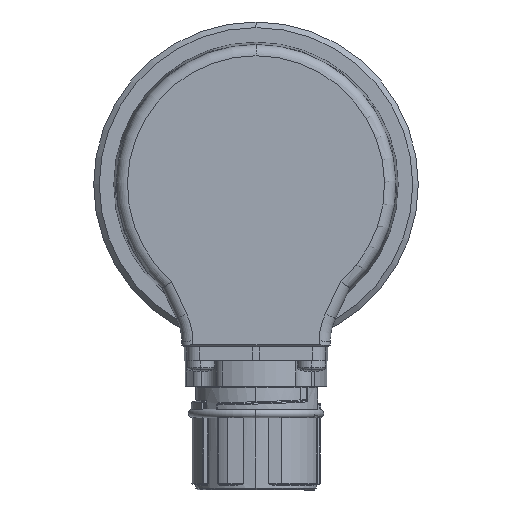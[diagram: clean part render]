
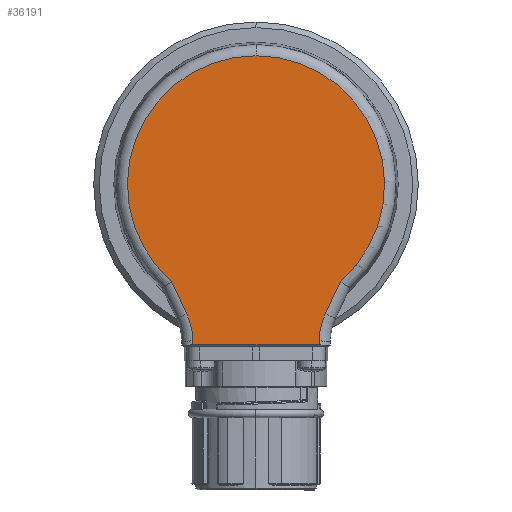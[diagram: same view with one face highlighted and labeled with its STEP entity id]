
A CAD part, left-side view. The second image highlights one B-rep face of the part: STEP entity #36191.
In plain terms, the highlighted planar face has unit normal (-1, 0, 0).
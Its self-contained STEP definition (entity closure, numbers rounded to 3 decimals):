
#11 = CARTESIAN_POINT ( 'NONE',  ( -21., 0., 0. ) ) ;
#308 = VERTEX_POINT ( 'NONE', #11670 ) ;
#537 = AXIS2_PLACEMENT_3D ( 'NONE', #43674, #23102, #2598 ) ;
#1126 = CARTESIAN_POINT ( 'NONE',  ( -21., 0., 0. ) ) ;
#1197 = ORIENTED_EDGE ( 'NONE', *, *, #4804, .T. ) ;
#1620 = DIRECTION ( 'NONE',  ( 1., 0., 0. ) ) ;
#2598 = DIRECTION ( 'NONE',  ( 0., 0., 1. ) ) ;
#3131 = VECTOR ( 'NONE', #29706, 1000. ) ;
#3166 = EDGE_CURVE ( 'NONE', #3321, #34284, #43244, .T. ) ;
#3227 = EDGE_CURVE ( 'NONE', #34284, #41139, #41115, .T. ) ;
#3299 = DIRECTION ( 'NONE',  ( 0., -0.423, 0.906 ) ) ;
#3321 = VERTEX_POINT ( 'NONE', #14503 ) ;
#3727 = AXIS2_PLACEMENT_3D ( 'NONE', #1126, #25095, #4569 ) ;
#3881 = DIRECTION ( 'NONE',  ( -1., 0., 0. ) ) ;
#4569 = DIRECTION ( 'NONE',  ( 0., 0., 1. ) ) ;
#4736 = EDGE_CURVE ( 'NONE', #33303, #308, #5048, .T. ) ;
#4804 = EDGE_CURVE ( 'NONE', #308, #3321, #38825, .T. ) ;
#5048 = LINE ( 'NONE', #9016, #40469 ) ;
#5737 = CARTESIAN_POINT ( 'NONE',  ( -21., -11.25, -28.695 ) ) ;
#6498 = VERTEX_POINT ( 'NONE', #22787 ) ;
#6727 = CARTESIAN_POINT ( 'NONE',  ( -21., -14.953, -17.615 ) ) ;
#7555 = CARTESIAN_POINT ( 'NONE',  ( -21., 11.255, -28.695 ) ) ;
#8208 = CARTESIAN_POINT ( 'NONE',  ( -21., 12.39, -23.112 ) ) ;
#9016 = CARTESIAN_POINT ( 'NONE',  ( -21., -11.752, -0.205 ) ) ;
#9537 = CIRCLE ( 'NONE', #3727, 22.972 ) ;
#9864 = VECTOR ( 'NONE', #26253, 1000. ) ;
#10692 = CARTESIAN_POINT ( 'NONE',  ( -21., 11.268, -27.974 ) ) ;
#11136 = CARTESIAN_POINT ( 'NONE',  ( -21., -11.255, -28.695 ) ) ;
#11670 = CARTESIAN_POINT ( 'NONE',  ( -21., -11.268, -27.974 ) ) ;
#12477 = LINE ( 'NONE', #8208, #38827 ) ;
#13671 = VERTEX_POINT ( 'NONE', #7555 ) ;
#13774 = DIRECTION ( 'NONE',  ( 1., 0., 0. ) ) ;
#14042 = ORIENTED_EDGE ( 'NONE', *, *, #43719, .T. ) ;
#14285 = CARTESIAN_POINT ( 'NONE',  ( -21., 0., 22.972 ) ) ;
#14503 = CARTESIAN_POINT ( 'NONE',  ( -21., -12.39, -23.112 ) ) ;
#15860 = VECTOR ( 'NONE', #3299, 1000. ) ;
#18269 = VERTEX_POINT ( 'NONE', #10692 ) ;
#18458 = ORIENTED_EDGE ( 'NONE', *, *, #42823, .T. ) ;
#19028 = ORIENTED_EDGE ( 'NONE', *, *, #43777, .T. ) ;
#19944 = AXIS2_PLACEMENT_3D ( 'NONE', #22125, #1620, #25595 ) ;
#21365 = LINE ( 'NONE', #5737, #3131 ) ;
#22125 = CARTESIAN_POINT ( 'NONE',  ( -21., 23.266, -28.183 ) ) ;
#22787 = CARTESIAN_POINT ( 'NONE',  ( -21., 15.091, -17.32 ) ) ;
#23102 = DIRECTION ( 'NONE',  ( 1., 0., 0. ) ) ;
#24414 = CARTESIAN_POINT ( 'NONE',  ( -21., 0., 0. ) ) ;
#24904 = ORIENTED_EDGE ( 'NONE', *, *, #3166, .T. ) ;
#25095 = DIRECTION ( 'NONE',  ( -1., 0., 0. ) ) ;
#25595 = DIRECTION ( 'NONE',  ( 0., 0., 1. ) ) ;
#26253 = DIRECTION ( 'NONE',  ( 0., -0.017, -1. ) ) ;
#27164 = AXIS2_PLACEMENT_3D ( 'NONE', #24414, #3881, #27847 ) ;
#27847 = DIRECTION ( 'NONE',  ( 0., 0., 1. ) ) ;
#29706 = DIRECTION ( 'NONE',  ( 0., -1., 0. ) ) ;
#32645 = FACE_OUTER_BOUND ( 'NONE', #37651, .T. ) ;
#33303 = VERTEX_POINT ( 'NONE', #11136 ) ;
#34284 = VERTEX_POINT ( 'NONE', #38226 ) ;
#34342 = VERTEX_POINT ( 'NONE', #38822 ) ;
#34354 = PLANE ( 'NONE',  #35270 ) ;
#35270 = AXIS2_PLACEMENT_3D ( 'NONE', #11, #13774, #37800 ) ;
#35375 = DIRECTION ( 'NONE',  ( 0., -0.423, -0.906 ) ) ;
#36191 = ADVANCED_FACE ( 'NONE', ( #32645 ), #34354, .F. ) ;
#37651 = EDGE_LOOP ( 'NONE', ( #18458, #39279, #39906, #1197, #24904, #39191, #41909, #14042, #19028 ) ) ;
#37742 = CIRCLE ( 'NONE', #19944, 12. ) ;
#37800 = DIRECTION ( 'NONE',  ( 0., 0., 1. ) ) ;
#38226 = CARTESIAN_POINT ( 'NONE',  ( -21., -15.091, -17.32 ) ) ;
#38347 = LINE ( 'NONE', #39928, #9864 ) ;
#38696 = EDGE_CURVE ( 'NONE', #41139, #6498, #9537, .T. ) ;
#38822 = CARTESIAN_POINT ( 'NONE',  ( -21., 12.39, -23.112 ) ) ;
#38825 = CIRCLE ( 'NONE', #537, 12. ) ;
#38827 = VECTOR ( 'NONE', #35375, 1000. ) ;
#38899 = EDGE_CURVE ( 'NONE', #13671, #33303, #21365, .T. ) ;
#39191 = ORIENTED_EDGE ( 'NONE', *, *, #3227, .T. ) ;
#39279 = ORIENTED_EDGE ( 'NONE', *, *, #38899, .T. ) ;
#39906 = ORIENTED_EDGE ( 'NONE', *, *, #4736, .T. ) ;
#39928 = CARTESIAN_POINT ( 'NONE',  ( -21., 11.752, -0.205 ) ) ;
#39943 = DIRECTION ( 'NONE',  ( 0., -0.017, 1. ) ) ;
#40469 = VECTOR ( 'NONE', #39943, 1000. ) ;
#41115 = CIRCLE ( 'NONE', #27164, 22.972 ) ;
#41139 = VERTEX_POINT ( 'NONE', #14285 ) ;
#41909 = ORIENTED_EDGE ( 'NONE', *, *, #38696, .T. ) ;
#42823 = EDGE_CURVE ( 'NONE', #18269, #13671, #38347, .T. ) ;
#43244 = LINE ( 'NONE', #6727, #15860 ) ;
#43674 = CARTESIAN_POINT ( 'NONE',  ( -21., -23.266, -28.183 ) ) ;
#43719 = EDGE_CURVE ( 'NONE', #6498, #34342, #12477, .T. ) ;
#43777 = EDGE_CURVE ( 'NONE', #34342, #18269, #37742, .T. ) ;
